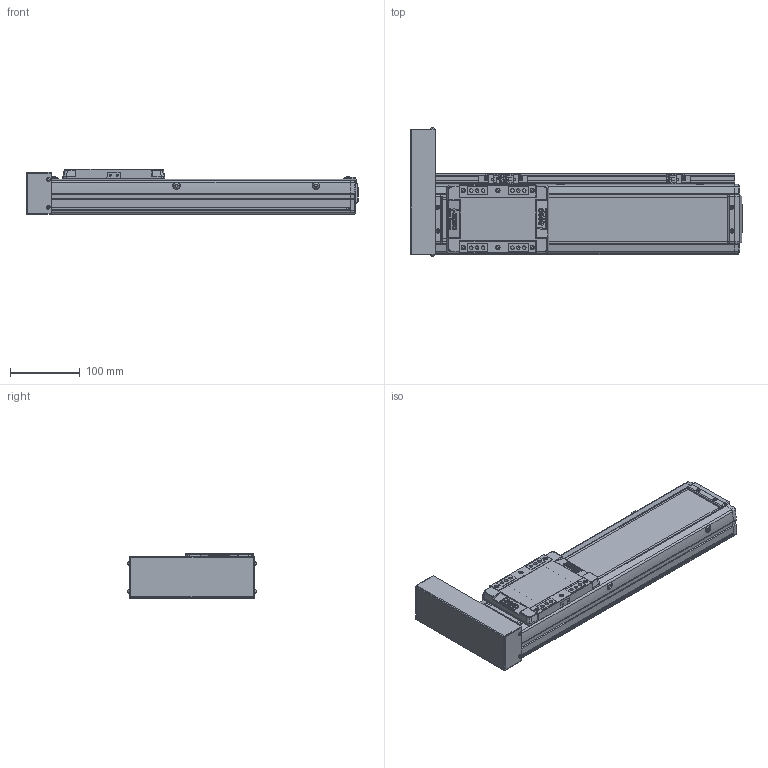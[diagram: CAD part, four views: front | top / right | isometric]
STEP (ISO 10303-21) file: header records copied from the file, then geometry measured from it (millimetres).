
FILE_DESCRIPTION(('STEP AP214'),'1');
FILE_NAME('Z:/Web/3D/SAN100/SAN100 양산용 (STEP)/SAN100ㅁㅁ-250PL+3SL.stp','2013-04-25T04:10:32',(' '),(' '),'Spatial InterOp 3D',' ',' ');
FILE_SCHEMA(('automotive_design'));
Length unit declared in the file: millimetre
Products named in the file (49): SGD-SAN100; M3.0 x 6.0; SRL-16x17-380L; EE-SX674; SBK-SX674-352; 스크루 : Round - M3.0 x 6.0; SUS COVER; SFX-SAN100; RRCV-SAN100; 스크루 : Round - M4.0 x 10.0; FRBL-SAN100; SLBL-SAN100; SLCV-SAN100; 스크루 : Countersunk - M3.0 x 6.0; BASE; 스크루 : Round - M5.0 x 6.0; BTCV-SAN65; BHCS M3 X 6L
Bounding box: 476.5 x 184.13 x 66 mm (x, y, z)
Volume: 1717485.4 mm3; surface area: 441593 mm2
Topology: 49 solids, 50 shells, 2329 faces, 6060 edges, 3929 vertices
Faces by surface type: plane 1278, cylinder 771, cone 182, sphere 64, torus 18, bspline 16
Entity records: 91740 total; most frequent: CARTESIAN_POINT 13613, DIRECTION 12747, ORIENTED_EDGE 11964, EDGE_CURVE 5982, AXIS2_PLACEMENT_3D 4484, VERTEX_POINT 3929, LINE 3779, VECTOR 3779
